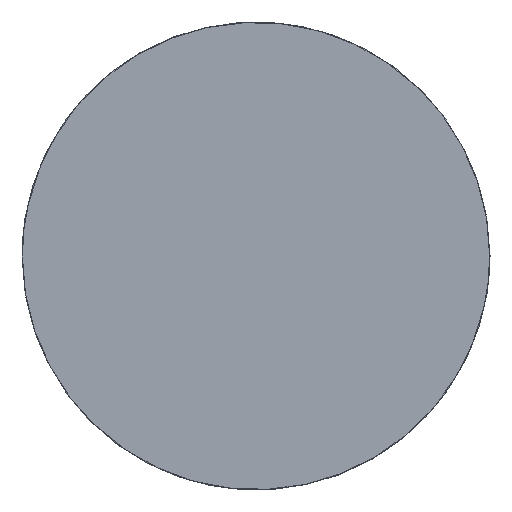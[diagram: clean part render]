
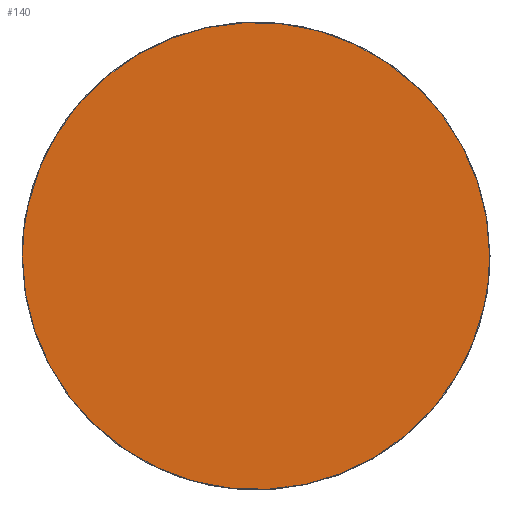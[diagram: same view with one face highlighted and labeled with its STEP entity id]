
A CAD part, top view. The second image highlights one B-rep face of the part: STEP entity #140.
In plain terms, the highlighted planar face has unit normal (0, 0, 1).
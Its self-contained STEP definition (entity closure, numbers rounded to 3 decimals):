
#140=ADVANCED_FACE('',(#252),#1598,.T.);
#252=FACE_OUTER_BOUND('',#372,.T.);
#372=EDGE_LOOP('',(#848,#849));
#848=ORIENTED_EDGE('',*,*,#1108,.T.);
#849=ORIENTED_EDGE('',*,*,#1115,.T.);
#1108=EDGE_CURVE('',#1486,#1490,#1358,.T.);
#1115=EDGE_CURVE('',#1490,#1486,#1362,.T.);
#1358=B_SPLINE_CURVE_WITH_KNOTS('',3,(#3021,#3022,#3023,#3024,#3025,#3026,
#3027,#3028,#3029,#3030,#3031,#3032,#3033,#3034,#3035,#3036,#3037,#3038,
#3039,#3040,#3041,#3042,#3043,#3044,#3045,#3046,#3047,#3048,#3049,#3050,
#3051,#3052,#3053,#3054,#3055),.UNSPECIFIED.,.F.,.F.,(4,1,1,1,1,1,1,1,1,
1,1,1,1,1,1,1,1,1,1,1,1,1,1,1,1,1,1,1,1,1,1,1,4),(0.,54.803,109.606,
167.702,225.798,286.318,346.837,408.645,
470.453,532.261,594.07,654.589,715.108,
773.204,831.3,886.103,940.907,995.71,
1050.513,1108.609,1166.705,1227.224,1287.744,
1349.552,1411.36,1473.168,1534.976,1595.496,
1656.015,1714.111,1772.207,1827.01,1881.813),
 .UNSPECIFIED.);
#1362=B_SPLINE_CURVE_WITH_KNOTS('',3,(#3106,#3107,#3108,#3109,#3110,#3111,
#3112,#3113,#3114,#3115,#3116,#3117,#3118,#3119,#3120,#3121,#3122,#3123,
#3124,#3125,#3126,#3127,#3128,#3129,#3130,#3131,#3132,#3133,#3134,#3135,
#3136,#3137,#3138,#3139),.UNSPECIFIED.,.F.,.F.,(4,1,1,1,1,1,1,1,1,1,1,1,
1,1,1,1,1,1,1,1,1,1,1,1,1,1,1,1,1,1,1,4),(1881.813,1936.616,
1991.42,2049.516,2107.612,2168.131,2228.65,
2290.458,2352.267,2414.075,2475.883,2536.402,
2596.922,2655.017,2713.113,2767.917,2822.72,
2877.523,2932.326,2990.422,3048.518,3109.038,
3169.557,3231.365,3293.173,3354.981,3416.79,
3477.309,3537.828,3595.924,3654.02,3763.627),
 .UNSPECIFIED.);
#1486=VERTEX_POINT('',#2965);
#1490=VERTEX_POINT('',#2969);
#1598=PLANE('',#1716);
#1716=AXIS2_PLACEMENT_3D('',#2675,#1818,$);
#1818=DIRECTION('',(0.,0.,1.));
#2675=CARTESIAN_POINT('',(-750.,-750.,789.));
#2965=CARTESIAN_POINT('',(599.,0.,789.));
#2969=CARTESIAN_POINT('',(-599.,0.,789.));
#3021=CARTESIAN_POINT('',(599.,0.,789.));
#3022=CARTESIAN_POINT('',(599.,18.268,789.));
#3023=CARTESIAN_POINT('',(597.327,54.803,789.));
#3024=CARTESIAN_POINT('',(589.672,110.236,789.));
#3025=CARTESIAN_POINT('',(576.58,165.78,789.));
#3026=CARTESIAN_POINT('',(557.556,221.6,789.));
#3027=CARTESIAN_POINT('',(532.77,276.008,789.));
#3028=CARTESIAN_POINT('',(501.997,328.708,789.));
#3029=CARTESIAN_POINT('',(465.757,378.347,789.));
#3030=CARTESIAN_POINT('',(424.309,424.309,789.));
#3031=CARTESIAN_POINT('',(378.347,465.757,789.));
#3032=CARTESIAN_POINT('',(328.708,501.997,789.));
#3033=CARTESIAN_POINT('',(276.008,532.77,789.));
#3034=CARTESIAN_POINT('',(221.6,557.556,789.));
#3035=CARTESIAN_POINT('',(165.78,576.58,789.));
#3036=CARTESIAN_POINT('',(110.236,589.672,789.));
#3037=CARTESIAN_POINT('',(54.803,597.328,789.));
#3038=CARTESIAN_POINT('',(0.,599.836,789.));
#3039=CARTESIAN_POINT('',(-54.803,597.328,789.));
#3040=CARTESIAN_POINT('',(-110.236,589.672,789.));
#3041=CARTESIAN_POINT('',(-165.78,576.58,789.));
#3042=CARTESIAN_POINT('',(-221.6,557.556,789.));
#3043=CARTESIAN_POINT('',(-276.008,532.77,789.));
#3044=CARTESIAN_POINT('',(-328.708,501.997,789.));
#3045=CARTESIAN_POINT('',(-378.347,465.757,789.));
#3046=CARTESIAN_POINT('',(-424.309,424.309,789.));
#3047=CARTESIAN_POINT('',(-465.757,378.347,789.));
#3048=CARTESIAN_POINT('',(-501.997,328.708,789.));
#3049=CARTESIAN_POINT('',(-532.77,276.008,789.));
#3050=CARTESIAN_POINT('',(-557.556,221.6,789.));
#3051=CARTESIAN_POINT('',(-576.58,165.78,789.));
#3052=CARTESIAN_POINT('',(-589.672,110.236,789.));
#3053=CARTESIAN_POINT('',(-597.328,54.803,789.));
#3054=CARTESIAN_POINT('',(-599.,18.268,789.));
#3055=CARTESIAN_POINT('',(-599.,0.,789.));
#3106=CARTESIAN_POINT('',(-599.,0.,789.));
#3107=CARTESIAN_POINT('',(-599.,-18.268,789.));
#3108=CARTESIAN_POINT('',(-597.328,-54.803,789.));
#3109=CARTESIAN_POINT('',(-589.672,-110.236,789.));
#3110=CARTESIAN_POINT('',(-576.58,-165.78,789.));
#3111=CARTESIAN_POINT('',(-557.556,-221.6,789.));
#3112=CARTESIAN_POINT('',(-532.77,-276.008,789.));
#3113=CARTESIAN_POINT('',(-501.997,-328.708,789.));
#3114=CARTESIAN_POINT('',(-465.757,-378.347,789.));
#3115=CARTESIAN_POINT('',(-424.309,-424.309,789.));
#3116=CARTESIAN_POINT('',(-378.347,-465.757,789.));
#3117=CARTESIAN_POINT('',(-328.708,-501.997,789.));
#3118=CARTESIAN_POINT('',(-276.008,-532.77,789.));
#3119=CARTESIAN_POINT('',(-221.6,-557.556,789.));
#3120=CARTESIAN_POINT('',(-165.78,-576.58,789.));
#3121=CARTESIAN_POINT('',(-110.236,-589.672,789.));
#3122=CARTESIAN_POINT('',(-54.803,-597.328,789.));
#3123=CARTESIAN_POINT('',(0.,-599.836,789.));
#3124=CARTESIAN_POINT('',(54.803,-597.328,789.));
#3125=CARTESIAN_POINT('',(110.236,-589.672,789.));
#3126=CARTESIAN_POINT('',(165.78,-576.58,789.));
#3127=CARTESIAN_POINT('',(221.6,-557.556,789.));
#3128=CARTESIAN_POINT('',(276.008,-532.77,789.));
#3129=CARTESIAN_POINT('',(328.708,-501.997,789.));
#3130=CARTESIAN_POINT('',(378.347,-465.757,789.));
#3131=CARTESIAN_POINT('',(424.309,-424.309,789.));
#3132=CARTESIAN_POINT('',(465.757,-378.347,789.));
#3133=CARTESIAN_POINT('',(501.997,-328.708,789.));
#3134=CARTESIAN_POINT('',(532.77,-276.008,789.));
#3135=CARTESIAN_POINT('',(557.556,-221.6,789.));
#3136=CARTESIAN_POINT('',(576.58,-165.78,789.));
#3137=CARTESIAN_POINT('',(593.869,-92.435,789.));
#3138=CARTESIAN_POINT('',(599.004,-36.536,789.));
#3139=CARTESIAN_POINT('',(599.,0.,789.));
